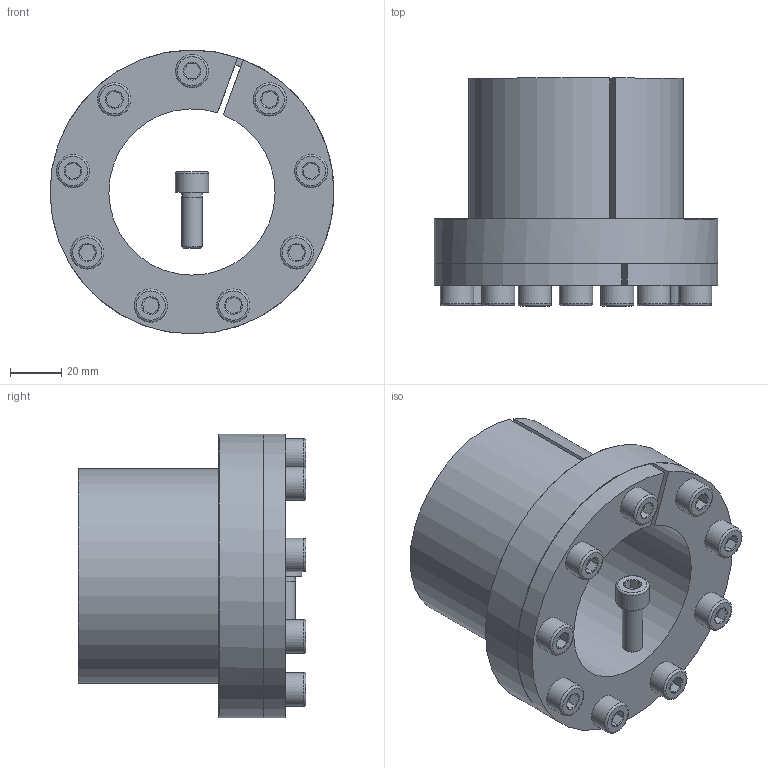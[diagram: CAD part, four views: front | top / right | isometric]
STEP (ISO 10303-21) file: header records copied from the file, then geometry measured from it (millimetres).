
FILE_DESCRIPTION( ( 'Unknown' ), '1' );
FILE_NAME( 'C:/Dokumente und Einstellungen/Sven/Desktop/homepage/cad - homepage/KBS80/KBS 80 - 65 x 84.stp', 'Unknown', ( 'Unknown' ), ( 'Unknown' ), 'XStep 1.0', 'Unknown', ' ' );
FILE_SCHEMA( ( 'automotive_design' ) );
Length unit declared in the file: millimetre
Products named in the file (11): Assem1; KBS 80 - 65 x 84; ISO EN DIN 4762 M8x22; ISO EN DIN 4762 M8x22-oa0; ISO EN DIN 4762 M8x22-oa1; ISO EN DIN 4762 M8x22-oa2; ISO EN DIN 4762 M8x22-oa3; ISO EN DIN 4762 M8x22-oa4; ISO EN DIN 4762 M8x22-oa5; ISO EN DIN 4762 M8x22-oa6; ISO EN DIN 4762 M8x22-oa7
Bounding box: 111 x 89 x 111 mm (x, y, z)
Volume: 581013.5 mm3; surface area: 141438.6 mm2
Topology: 20 solids, 20 shells, 508 faces, 948 edges, 550 vertices
Faces by surface type: plane 232, cone 140, cylinder 100, torus 36
Full cylindrical faces by diameter (mm): 7 x18, 8 x54, 13 x18, 111 x2
Entity records: 6386 total; most frequent: CARTESIAN_POINT 1336, DIRECTION 1036, ORIENTED_EDGE 756, AXIS2_PLACEMENT_3D 455, EDGE_LOOP 385, EDGE_CURVE 378, FACE_OUTER_BOUND 318, VERTEX_POINT 255
